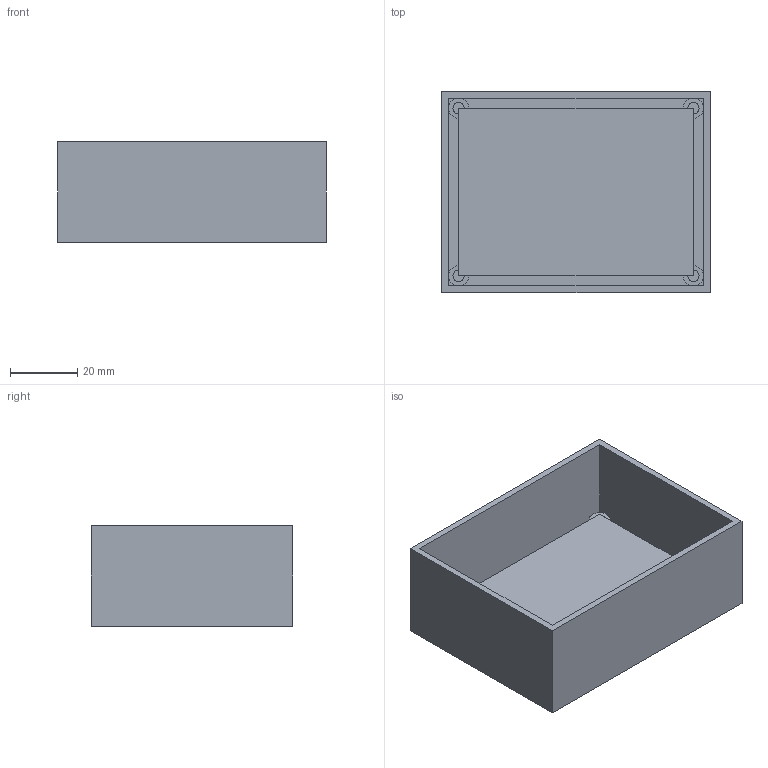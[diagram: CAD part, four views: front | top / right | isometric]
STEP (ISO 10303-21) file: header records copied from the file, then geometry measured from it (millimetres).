
FILE_DESCRIPTION(('Open CASCADE Model'),'2;1');
FILE_NAME('Open CASCADE Shape Model','2026-10-30T15:21:06',('Author'),( 'Open CASCADE'),'Open CASCADE STEP processor 7.9','Open CASCADE 7.9' ,'Unknown');
FILE_SCHEMA(('AUTOMOTIVE_DESIGN { 1 0 10303 214 1 1 1 1 }'));
Length unit declared in the file: millimetre
Products named in the file (3): 86bd7f68-d475-11f1-ae07-4da4bc283b88; enclosure; pcb_dummy
Assembly tree (2 placements, depth 2):
  86bd7f68-d475-11f1-ae07-4da4bc283b88
    enclosure
    pcb_dummy
Bounding box: 80 x 60 x 30 mm (x, y, z)
Volume: 30739.1 mm3; surface area: 33248.5 mm2
Topology: 2 solids, 2 shells, 41 faces, 80 edges, 48 vertices
Faces by surface type: plane 29, cylinder 12
Full cylindrical faces by diameter (mm): 3.4 x4
Entity records: 2112 total; most frequent: CARTESIAN_POINT 424, DIRECTION 300, ORIENTED_EDGE 160, PCURVE 160, DEFINITIONAL_REPRESENTATION 160, LINE 148, VECTOR 148, EDGE_CURVE 80
